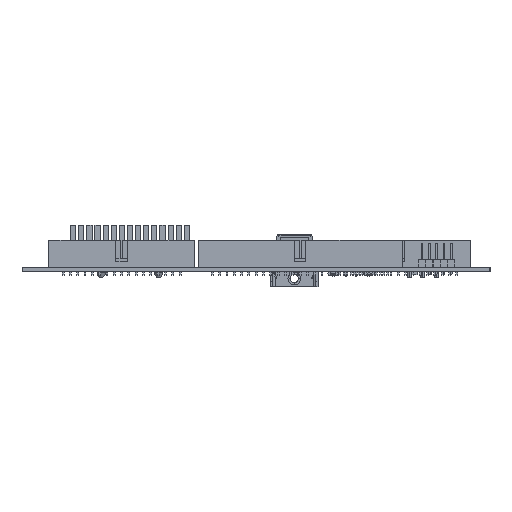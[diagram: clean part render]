
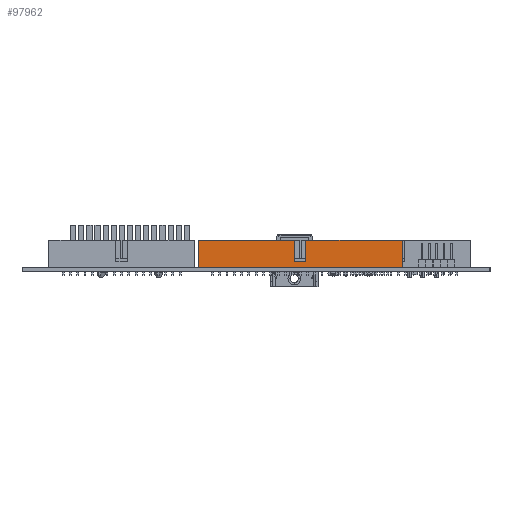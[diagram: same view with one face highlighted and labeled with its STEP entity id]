
A CAD part, left-side view. The second image highlights one B-rep face of the part: STEP entity #97962.
In plain terms, the highlighted planar face has unit normal (-1, 0, 0).
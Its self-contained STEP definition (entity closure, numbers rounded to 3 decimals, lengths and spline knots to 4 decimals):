
#10501=DIRECTION('',(0.,-1.,0.));
#10502=VECTOR('',#10501,2.79);
#10503=CARTESIAN_POINT('',(-3.105,0.792,0.062));
#10504=LINE('',#10503,#10502);
#27585=DIRECTION('',(0.,0.,1.));
#27586=VECTOR('',#27585,0.37);
#27587=CARTESIAN_POINT('',(-3.105,-1.998,0.062));
#27588=LINE('',#27587,#27586);
#27589=DIRECTION('',(0.,0.,1.));
#27590=VECTOR('',#27589,0.37);
#27591=CARTESIAN_POINT('',(-3.105,0.792,0.062));
#27592=LINE('',#27591,#27590);
#27593=DIRECTION('',(0.,0.,-1.));
#27594=VECTOR('',#27593,0.29);
#27595=CARTESIAN_POINT('',(-3.105,-0.523,0.432));
#27596=LINE('',#27595,#27594);
#27597=DIRECTION('',(0.,-1.,0.));
#27598=VECTOR('',#27597,0.16);
#27599=CARTESIAN_POINT('',(-3.105,-0.523,0.142));
#27600=LINE('',#27599,#27598);
#27601=DIRECTION('',(0.,0.,-1.));
#27602=VECTOR('',#27601,0.29);
#27603=CARTESIAN_POINT('',(-3.105,-0.683,0.432));
#27604=LINE('',#27603,#27602);
#27617=DIRECTION('',(0.,-1.,0.));
#27618=VECTOR('',#27617,1.315);
#27619=CARTESIAN_POINT('',(-3.105,0.792,0.432));
#27620=LINE('',#27619,#27618);
#27633=DIRECTION('',(0.,-1.,0.));
#27634=VECTOR('',#27633,1.315);
#27635=CARTESIAN_POINT('',(-3.105,-0.683,0.432));
#27636=LINE('',#27635,#27634);
#57213=CARTESIAN_POINT('',(-3.105,-1.998,0.432));
#57215=VERTEX_POINT('',#57213);
#57219=CARTESIAN_POINT('',(-3.105,0.792,0.432));
#57220=VERTEX_POINT('',#57219);
#57241=CARTESIAN_POINT('',(-3.105,-0.523,0.432));
#57243=VERTEX_POINT('',#57241);
#57245=CARTESIAN_POINT('',(-3.105,-0.683,0.432));
#57247=VERTEX_POINT('',#57245);
#57249=CARTESIAN_POINT('',(-3.105,-0.523,0.142));
#57250=VERTEX_POINT('',#57249);
#57251=CARTESIAN_POINT('',(-3.105,-0.683,0.142));
#57252=VERTEX_POINT('',#57251);
#59661=CARTESIAN_POINT('',(-3.105,-1.998,0.062));
#59663=VERTEX_POINT('',#59661);
#59667=CARTESIAN_POINT('',(-3.105,0.792,0.062));
#59668=VERTEX_POINT('',#59667);
#97941=CARTESIAN_POINT('',(-3.105,0.792,0.062));
#97942=DIRECTION('',(-1.,0.,0.));
#97943=DIRECTION('',(0.,-1.,0.));
#97944=AXIS2_PLACEMENT_3D('',#97941,#97942,#97943);
#97945=PLANE('',#97944);
#97946=ORIENTED_EDGE('',*,*,#70763,.F.);
#97948=ORIENTED_EDGE('',*,*,#97947,.T.);
#97950=ORIENTED_EDGE('',*,*,#97949,.T.);
#97952=ORIENTED_EDGE('',*,*,#97951,.T.);
#97954=ORIENTED_EDGE('',*,*,#97953,.T.);
#97956=ORIENTED_EDGE('',*,*,#97955,.F.);
#97958=ORIENTED_EDGE('',*,*,#97957,.T.);
#97959=ORIENTED_EDGE('',*,*,#97932,.F.);
#97960=EDGE_LOOP('',(#97946,#97948,#97950,#97952,#97954,#97956,#97958,#97959));
#97961=FACE_OUTER_BOUND('',#97960,.F.);
#97962=ADVANCED_FACE('',(#97961),#97945,.T.);
#70763=EDGE_CURVE('',#59668,#59663,#10504,.T.);
#97932=EDGE_CURVE('',#59663,#57215,#27588,.T.);
#97947=EDGE_CURVE('',#59668,#57220,#27592,.T.);
#97949=EDGE_CURVE('',#57220,#57243,#27620,.T.);
#97951=EDGE_CURVE('',#57243,#57250,#27596,.T.);
#97953=EDGE_CURVE('',#57250,#57252,#27600,.T.);
#97955=EDGE_CURVE('',#57247,#57252,#27604,.T.);
#97957=EDGE_CURVE('',#57247,#57215,#27636,.T.);
